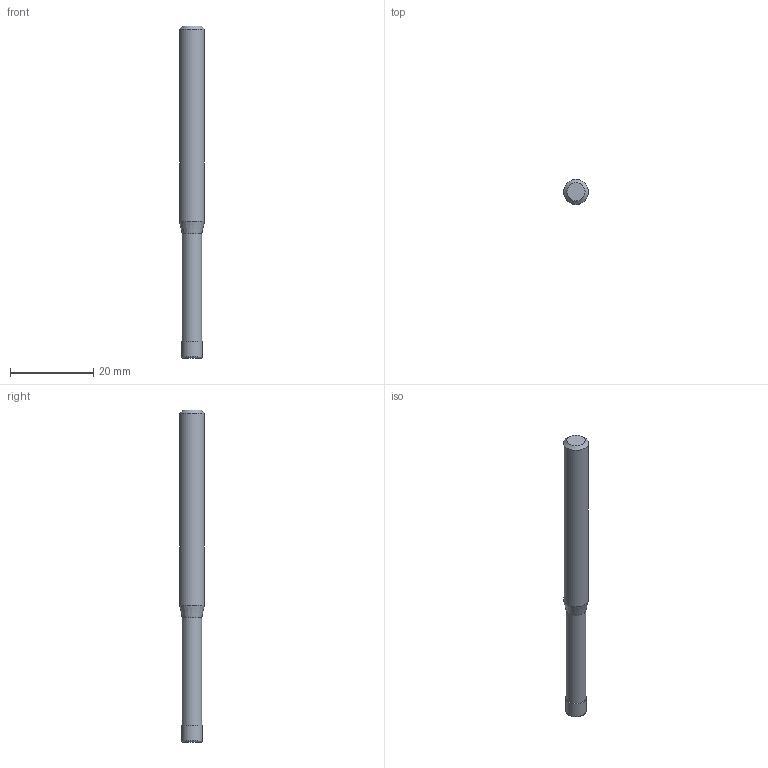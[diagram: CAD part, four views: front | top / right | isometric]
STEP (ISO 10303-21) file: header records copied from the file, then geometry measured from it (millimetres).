
FILE_DESCRIPTION((''),'2;1');
FILE_NAME('C:\Users\nsx150\AppData\Local\Temp\Mastercam 2021\CSMVKW3037\TEMP.step','2023-06-23T16:04:59',(''),(''),'STEP Write','Mastercam 2021 ... CNC Software, Inc.','');
FILE_SCHEMA(('AUTOMOTIVE_DESIGN'));
Length unit declared in the file: millimetre
Products named in the file (1): None
Bounding box: 6 x 6 x 80 mm (x, y, z)
Volume: 1931.1 mm3; surface area: 1462.2 mm2
Topology: 2 solids, 2 shells, 10 faces, 14 edges, 8 vertices
Faces by surface type: plane 4, cylinder 3, cone 2, torus 1
Full cylindrical faces by diameter (mm): 4.75 x1, 5 x1, 6 x1
Entity records: 232 total; most frequent: DIRECTION 40, CARTESIAN_POINT 28, AXIS2_PLACEMENT_3D 20, ORIENTED_EDGE 16, EDGE_LOOP 16, STYLED_ITEM 13, ADVANCED_FACE 10, FACE_BOUND 10
